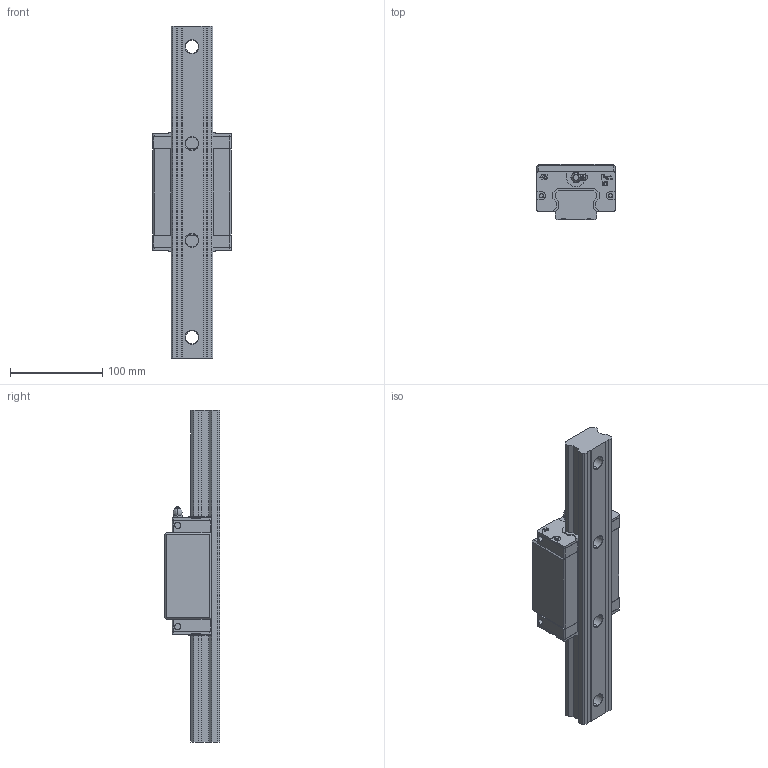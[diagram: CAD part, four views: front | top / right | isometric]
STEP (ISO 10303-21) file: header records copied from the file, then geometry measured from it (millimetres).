
FILE_DESCRIPTION (( 'STEP AP203' ), '1' );
FILE_NAME ('BGCS45BN.STEP', '2025-10-20T07:34:50', ( '' ), ( '' ), 'SwSTEP 2.0', 'SolidWorks 2020', '' );
FILE_SCHEMA (( 'CONFIG_CONTROL_DESIGN' ));
Length unit declared in the file: millimetre
Products named in the file (5): BGXS45BN; BG45端防塵; BGR45-L360; BGCS45BN; NGX04
Assembly tree (5 placements, depth 2):
  BGCS45BN
    BGR45-L360
    BGXS45BN
    BG45端防塵  x2
    NGX04
Bounding box: 85.95 x 60 x 360 mm (x, y, z)
Volume: 834814.3 mm3; surface area: 137451.8 mm2
Topology: 7 solids, 7 shells, 813 faces, 2194 edges, 1450 vertices
Faces by surface type: plane 582, cylinder 128, bspline 50, cone 49, torus 4
Entity records: 20758 total; most frequent: CARTESIAN_POINT 6491, ORIENTED_EDGE 2938, DIRECTION 2639, EDGE_CURVE 1469, VECTOR 1075, LINE 1075, VERTEX_POINT 968, AXIS2_PLACEMENT_3D 782
